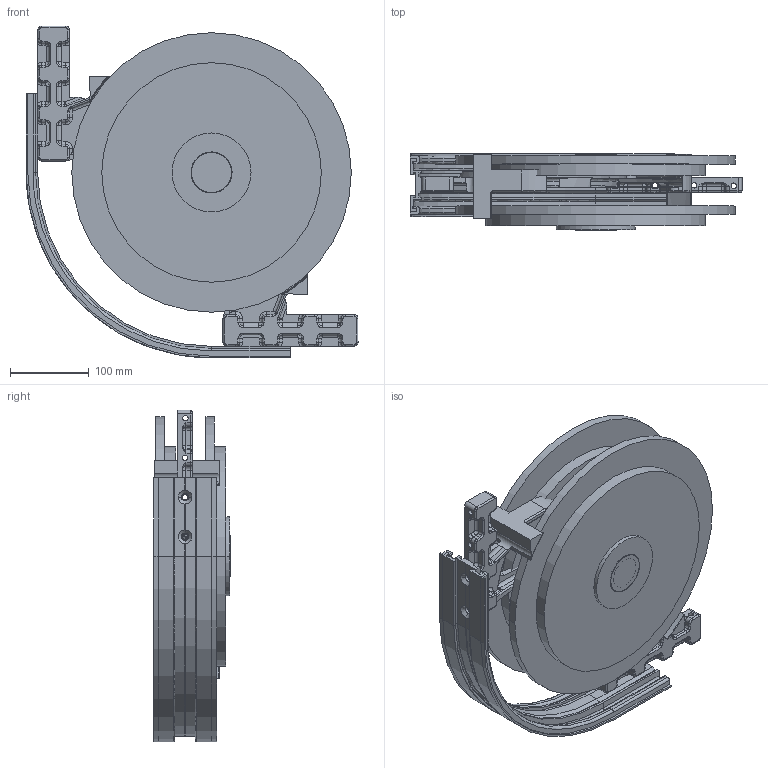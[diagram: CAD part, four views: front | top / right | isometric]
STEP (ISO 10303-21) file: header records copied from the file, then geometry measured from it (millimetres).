
FILE_DESCRIPTION (( 'STEP AP203' ), '1' );
FILE_NAME ('R1C200-90.STEP', '2008-11-24T14:37:47', ( 'faber' ), ( '' ), 'SwSTEP 2.0', 'SolidWorks 2008', '' );
FILE_SCHEMA (( 'CONFIG_CONTROL_DESIGN' ));
Length unit declared in the file: millimetre
Products named in the file (1): R1C200-90
Bounding box: 420.5 x 97.4 x 420.5 mm (x, y, z)
Surface area: 711908.5 mm2 (no closed solid volume)
Topology: 0 solids, 165 shells, 895 faces, 3214 edges, 2448 vertices
Faces by surface type: plane 405, cylinder 261, bspline 211, cone 18
Entity records: 43950 total; most frequent: CARTESIAN_POINT 20032, ORIENTED_EDGE 4711, DIRECTION 4124, EDGE_CURVE 3212, VERTEX_POINT 2448, AXIS2_PLACEMENT_3D 1435, LINE 1254, VECTOR 1254
